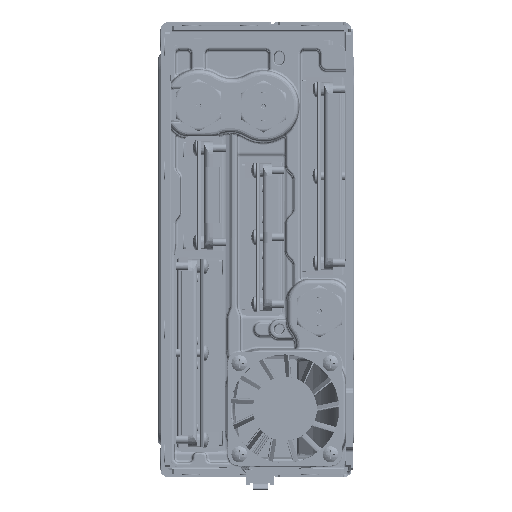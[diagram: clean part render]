
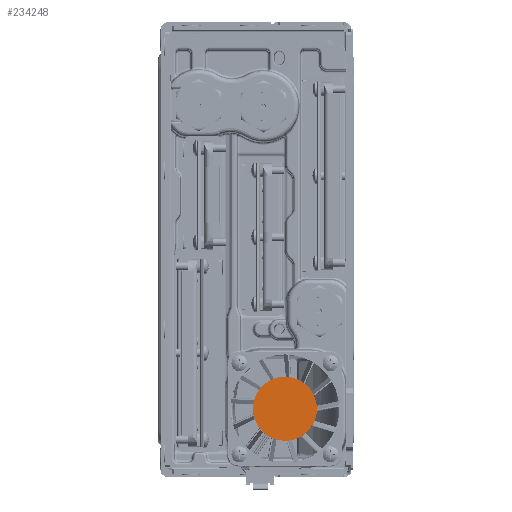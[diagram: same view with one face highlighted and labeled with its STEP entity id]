
A CAD part, left-side view. The second image highlights one B-rep face of the part: STEP entity #234248.
In plain terms, the highlighted planar face has unit normal (-1, 0, 0).
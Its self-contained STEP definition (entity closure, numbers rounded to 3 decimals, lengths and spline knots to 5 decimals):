
#2695 = DIRECTION ( 'NONE',  ( 0., -1., 0. ) ) ;
#8120 = PLANE ( 'NONE',  #140589 ) ;
#65165 = EDGE_LOOP ( 'NONE', ( #255243 ) ) ;
#77634 = EDGE_CURVE ( 'NONE', #315071, #315071, #222952, .T. ) ;
#89782 = CARTESIAN_POINT ( 'NONE',  ( -2.13229, -0.6325, -5.66238 ) ) ;
#113140 = CARTESIAN_POINT ( 'NONE',  ( -2.13229, -0.6325, -5.21969 ) ) ;
#119748 = CARTESIAN_POINT ( 'NONE',  ( -2.13229, -0.6325, -5.21969 ) ) ;
#140589 = AXIS2_PLACEMENT_3D ( 'NONE', #119748, #231441, #2695 ) ;
#141795 = FACE_OUTER_BOUND ( 'NONE', #65165, .T. ) ;
#152900 = AXIS2_PLACEMENT_3D ( 'NONE', #113140, #200967, #199133 ) ;
#199133 = DIRECTION ( 'NONE',  ( 0., 0., -1. ) ) ;
#200967 = DIRECTION ( 'NONE',  ( 1., 0., 0. ) ) ;
#222952 = CIRCLE ( 'NONE', #152900, 0.44269 ) ;
#231441 = DIRECTION ( 'NONE',  ( 1., 0., 0. ) ) ;
#234248 = ADVANCED_FACE ( 'NONE', ( #141795 ), #8120, .F. ) ;
#255243 = ORIENTED_EDGE ( 'NONE', *, *, #77634, .F. ) ;
#315071 = VERTEX_POINT ( 'NONE', #89782 ) ;
